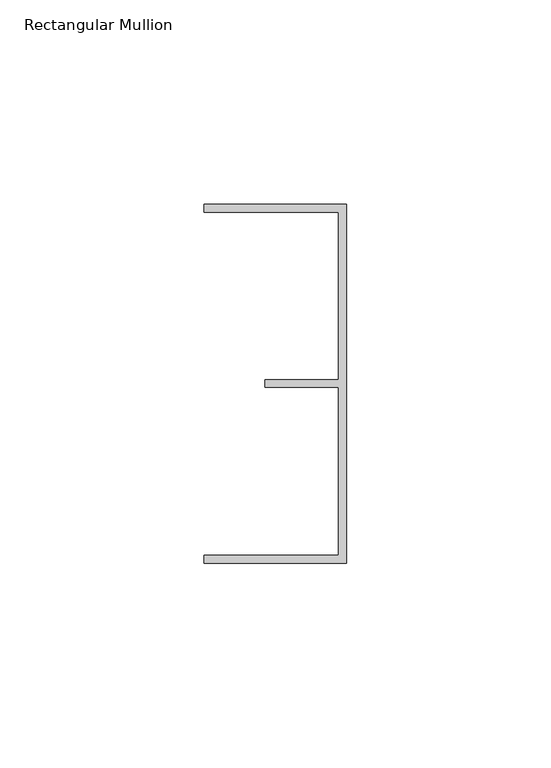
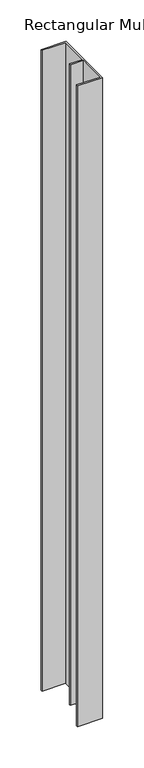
"""IFC4 building model written with IfcOpenShell, lengths in millimetres: member geometry, Rectangular Mullion : CEILING_TRACK_CAP 94-KLP00-P80-SD20ALU."""

from ifc_helpers import new_model, si_unit, frame, origin, place, context, project, spatial, polyline, outline, extrude, source, transform, mapped, element, save


def rectangular_mullion_2559ebc3(model_context):
    return source(origin(), model_context, "Body", "SweptSolid", [
        extrude(outline(polyline([(0.0, 44.0), (0.0, -44.0), (-35.0, -44.0), (-35.0, -42.0), (-2.0, -42.0), (-2.0, -0.9316478), (-20.0, -0.9316478), (-20.0, 0.9316478), (-2.0, 0.9316478), (-2.0, 42.0), (-35.0, 42.0), (-35.0, 44.0), (0.0, 44.0)])), frame((0.0, 0.0, -945.8), z_axis=(0.0, 0.0, 1.0), x_axis=(1.0, 0.0, 0.0)), (0.0, 0.0, 1.0), 945.8),
    ])


if __name__ == "__main__":
    model = new_model("IFC4")
    model_context = context("Model", 3, world=origin())
    ifc_project = project(units=[si_unit("LENGTHUNIT", "METRE", prefix="MILLI")], contexts=[model_context])
    site = spatial("IfcSite", under=ifc_project)
    building = spatial("IfcBuilding", under=site)
    placement = place(None, origin())
    rectangular_mullion_shape = rectangular_mullion_2559ebc3(model_context)
    element("IfcMember", 1, ObjectType="Rectangular Mullion : CEILING_TRACK_CAP 94-KLP00-P80-SD20ALU", at=placement, inside=building, context=model_context, shape_type="MappedRepresentation", body=[
        mapped(rectangular_mullion_shape, transform((0.0, 0.0, 0.0), x_axis=(1.0, 0.0, 0.0), y_axis=(0.0, 1.0, 0.0), z_axis=(0.0, 0.0, 1.0))),
    ])
    save(model, "model.ifc")
